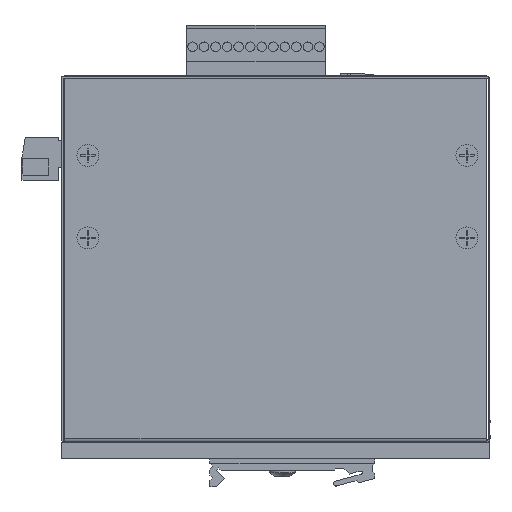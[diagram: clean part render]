
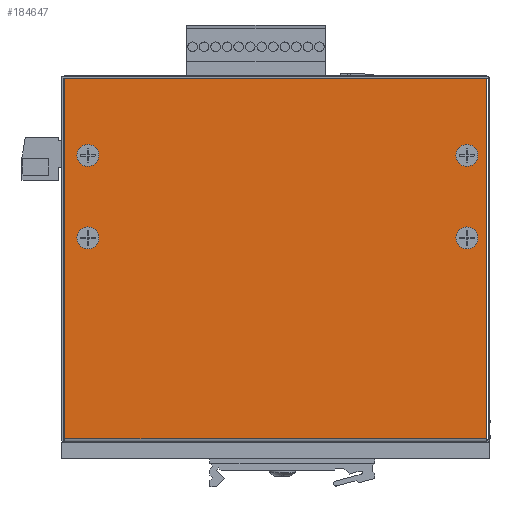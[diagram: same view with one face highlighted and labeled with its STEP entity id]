
A CAD part, left-side view. The second image highlights one B-rep face of the part: STEP entity #184647.
In plain terms, the highlighted planar face has unit normal (-1, 0, 0).
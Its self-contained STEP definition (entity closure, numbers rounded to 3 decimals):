
#16233=LINE('',#248292,#36360);
#16237=LINE('',#248302,#36364);
#16244=LINE('',#248320,#36371);
#16246=LINE('',#248323,#36373);
#36360=VECTOR('',#211277,10.);
#36364=VECTOR('',#211287,0.72);
#36371=VECTOR('',#211306,10.);
#36373=VECTOR('',#211310,10.);
#52575=PLANE('',#195615);
#59584=FACE_BOUND('',#73523,.T.);
#59585=FACE_BOUND('',#73524,.T.);
#59586=FACE_BOUND('',#73525,.T.);
#59587=FACE_BOUND('',#73526,.T.);
#62981=FACE_OUTER_BOUND('',#73522,.T.);
#73522=EDGE_LOOP('',(#137983,#137984,#137985,#137986));
#73523=EDGE_LOOP('',(#137987));
#73524=EDGE_LOOP('',(#137988));
#73525=EDGE_LOOP('',(#137989));
#73526=EDGE_LOOP('',(#137990));
#82908=CIRCLE('',#193580,3.35);
#82920=CIRCLE('',#193609,3.35);
#82932=CIRCLE('',#193638,3.35);
#82944=CIRCLE('',#193667,3.35);
#83701=VERTEX_POINT('',#236916);
#83729=VERTEX_POINT('',#237001);
#83757=VERTEX_POINT('',#237086);
#83785=VERTEX_POINT('',#237171);
#87410=VERTEX_POINT('',#248290);
#87411=VERTEX_POINT('',#248291);
#87414=VERTEX_POINT('',#248300);
#87419=VERTEX_POINT('',#248319);
#101921=EDGE_CURVE('',#83701,#83701,#82908,.T.);
#101961=EDGE_CURVE('',#83729,#83729,#82920,.T.);
#102001=EDGE_CURVE('',#83757,#83757,#82932,.T.);
#102041=EDGE_CURVE('',#83785,#83785,#82944,.T.);
#107470=EDGE_CURVE('',#87410,#87411,#16233,.T.);
#107476=EDGE_CURVE('',#87414,#87411,#16237,.T.);
#107485=EDGE_CURVE('',#87410,#87419,#16244,.T.);
#107487=EDGE_CURVE('',#87419,#87414,#16246,.T.);
#137983=ORIENTED_EDGE('',*,*,#107470,.T.);
#137984=ORIENTED_EDGE('',*,*,#107476,.F.);
#137985=ORIENTED_EDGE('',*,*,#107487,.F.);
#137986=ORIENTED_EDGE('',*,*,#107485,.F.);
#137987=ORIENTED_EDGE('',*,*,#101921,.T.);
#137988=ORIENTED_EDGE('',*,*,#101961,.T.);
#137989=ORIENTED_EDGE('',*,*,#102001,.T.);
#137990=ORIENTED_EDGE('',*,*,#102041,.T.);
#184647=ADVANCED_FACE('',(#62981,#59584,#59585,#59586,#59587),#52575,.F.);
#193580=AXIS2_PLACEMENT_3D('',#236917,#201831,#201832);
#193609=AXIS2_PLACEMENT_3D('',#237002,#201917,#201918);
#193638=AXIS2_PLACEMENT_3D('',#237087,#202003,#202004);
#193667=AXIS2_PLACEMENT_3D('',#237172,#202089,#202090);
#195615=AXIS2_PLACEMENT_3D('',#248324,#211311,#211312);
#201831=DIRECTION('center_axis',(1.,0.,0.));
#201832=DIRECTION('ref_axis',(0.,0.,1.));
#201917=DIRECTION('center_axis',(1.,0.,0.));
#201918=DIRECTION('ref_axis',(0.,0.,1.));
#202003=DIRECTION('center_axis',(1.,0.,0.));
#202004=DIRECTION('ref_axis',(0.,0.,1.));
#202089=DIRECTION('center_axis',(1.,0.,0.));
#202090=DIRECTION('ref_axis',(0.,0.,1.));
#211277=DIRECTION('',(0.,-1.,0.));
#211287=DIRECTION('',(0.,0.,-1.));
#211306=DIRECTION('',(0.,0.,1.));
#211310=DIRECTION('',(0.,-1.,0.));
#211311=DIRECTION('center_axis',(1.,0.,0.));
#211312=DIRECTION('ref_axis',(0.,0.,
	-1.));
#236916=CARTESIAN_POINT('',(-100.,-58.,58.65));
#236917=CARTESIAN_POINT('Origin',(-100.,-58.,62.));
#237001=CARTESIAN_POINT('',(-100.,57.,58.65));
#237002=CARTESIAN_POINT('Origin',(-100.,57.,62.));
#237086=CARTESIAN_POINT('',(-100.,-58.,83.65));
#237087=CARTESIAN_POINT('Origin',(-100.,-58.,87.));
#237171=CARTESIAN_POINT('',(-100.,57.,83.65));
#237172=CARTESIAN_POINT('Origin',(-100.,57.,87.));
#248290=CARTESIAN_POINT('',(-100.,64.,1.));
#248291=CARTESIAN_POINT('',(-100.,-64.,1.));
#248292=CARTESIAN_POINT('',(-100.,0.,1.));
#248300=CARTESIAN_POINT('',(-100.,-64.,110.4));
#248302=CARTESIAN_POINT('',(-100.,-64.,-1.262));
#248319=CARTESIAN_POINT('',(-100.,64.,110.4));
#248320=CARTESIAN_POINT('',(-100.,64.,1.));
#248323=CARTESIAN_POINT('',(-100.,64.,110.4));
#248324=CARTESIAN_POINT('Origin',(-100.,0.,
	55.135));
